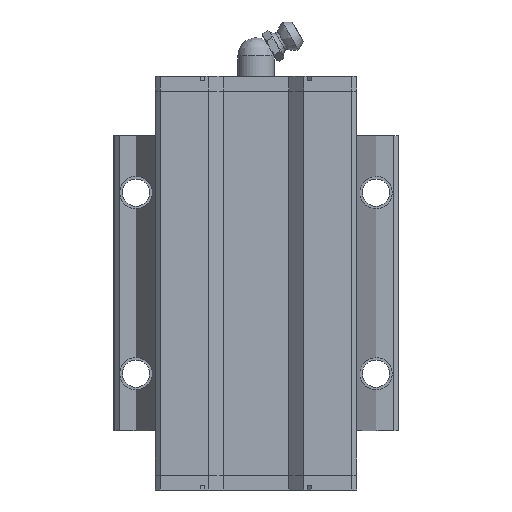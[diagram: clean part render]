
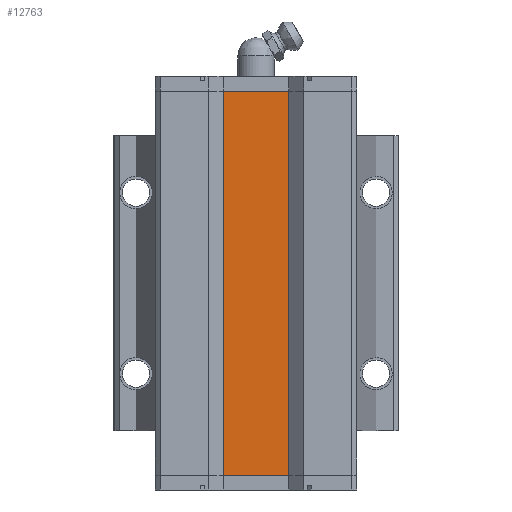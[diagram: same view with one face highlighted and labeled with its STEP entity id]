
A CAD part, front view. The second image highlights one B-rep face of the part: STEP entity #12763.
In plain terms, the highlighted planar face has unit normal (0, -1, 0).
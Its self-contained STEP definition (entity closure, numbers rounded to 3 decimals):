
#367 = VERTEX_POINT ( 'NONE', #11062 ) ;
#664 = EDGE_CURVE ( 'NONE', #11270, #2611, #4089, .T. ) ;
#855 = DIRECTION ( 'NONE',  ( 0., 0., -1. ) ) ;
#1004 = VECTOR ( 'NONE', #855, 1000. ) ;
#1100 = CARTESIAN_POINT ( 'NONE',  ( 7.228, 13.2, 42.425 ) ) ;
#1518 = VECTOR ( 'NONE', #8946, 1000. ) ;
#1648 = VECTOR ( 'NONE', #12005, 1000. ) ;
#1866 = CARTESIAN_POINT ( 'NONE',  ( 7.228, 13.2, -42.425 ) ) ;
#1945 = CARTESIAN_POINT ( 'NONE',  ( -7.228, 13.2, -42.425 ) ) ;
#1993 = DIRECTION ( 'NONE',  ( 1., 0., 0. ) ) ;
#2611 = VERTEX_POINT ( 'NONE', #6456 ) ;
#3609 = PLANE ( 'NONE',  #8812 ) ;
#3656 = LINE ( 'NONE', #1866, #1004 ) ;
#4089 = LINE ( 'NONE', #11780, #9376 ) ;
#4598 = DIRECTION ( 'NONE',  ( 0., 1., 0. ) ) ;
#4818 = EDGE_CURVE ( 'NONE', #5407, #367, #6959, .T. ) ;
#4819 = ORIENTED_EDGE ( 'NONE', *, *, #4818, .T. ) ;
#5019 = ORIENTED_EDGE ( 'NONE', *, *, #664, .T. ) ;
#5407 = VERTEX_POINT ( 'NONE', #1100 ) ;
#5891 = ORIENTED_EDGE ( 'NONE', *, *, #8914, .F. ) ;
#6456 = CARTESIAN_POINT ( 'NONE',  ( 7.228, 13.2, -42.425 ) ) ;
#6959 = LINE ( 'NONE', #7983, #1648 ) ;
#7141 = LINE ( 'NONE', #1945, #1518 ) ;
#7699 = CARTESIAN_POINT ( 'NONE',  ( -7.228, 13.2, -42.425 ) ) ;
#7983 = CARTESIAN_POINT ( 'NONE',  ( 22.208, 13.2, 42.425 ) ) ;
#8556 = CARTESIAN_POINT ( 'NONE',  ( 7.228, 13.2, -42.425 ) ) ;
#8812 = AXIS2_PLACEMENT_3D ( 'NONE', #8556, #4598, #11571 ) ;
#8914 = EDGE_CURVE ( 'NONE', #5407, #2611, #3656, .T. ) ;
#8946 = DIRECTION ( 'NONE',  ( 0., 0., 1. ) ) ;
#9376 = VECTOR ( 'NONE', #1993, 1000. ) ;
#9438 = FACE_OUTER_BOUND ( 'NONE', #10468, .T. ) ;
#10468 = EDGE_LOOP ( 'NONE', ( #10633, #5019, #5891, #4819 ) ) ;
#10633 = ORIENTED_EDGE ( 'NONE', *, *, #11385, .F. ) ;
#11062 = CARTESIAN_POINT ( 'NONE',  ( -7.228, 13.2, 42.425 ) ) ;
#11270 = VERTEX_POINT ( 'NONE', #7699 ) ;
#11385 = EDGE_CURVE ( 'NONE', #11270, #367, #7141, .T. ) ;
#11571 = DIRECTION ( 'NONE',  ( 1., 0., 0. ) ) ;
#11780 = CARTESIAN_POINT ( 'NONE',  ( 22.208, 13.2, -42.425 ) ) ;
#12005 = DIRECTION ( 'NONE',  ( -1., 0., 0. ) ) ;
#12763 = ADVANCED_FACE ( 'NONE', ( #9438 ), #3609, .F. ) ;
